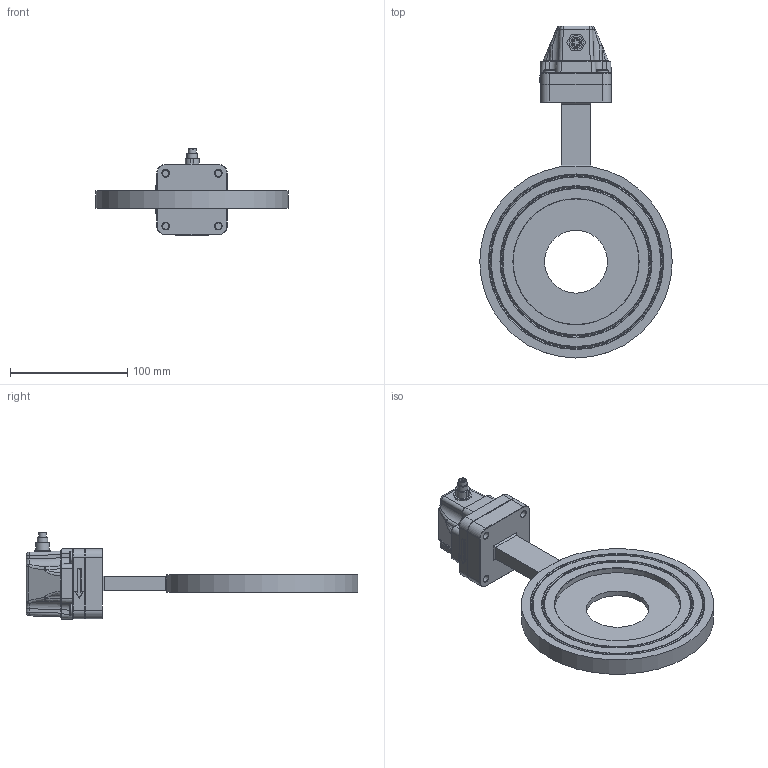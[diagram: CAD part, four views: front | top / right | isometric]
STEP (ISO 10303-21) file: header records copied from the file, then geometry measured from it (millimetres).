
FILE_DESCRIPTION(/* description */ ('Alibre Inc.'),/* implementation_level */ '2;1');
FILE_NAME(/* name */ 'export0',/* time_stamp */ '2012-11-14T14:30:20+01:00',/* author */ (''),/* organization */ (''),/* preprocessor_version */ 'ST-DEVELOPER v14',/* originating_system */ 'Alibre',/* authorisation */ '');
FILE_SCHEMA (('CONFIG_CONTROL_DESIGN'));
Length unit declared in the file: centimetre
Products named in the file (6): ID_1; ID_2; ID_3; ID_4
Bounding box: 164 x 282.75 x 73.94 mm (x, y, z)
Volume: 334926.3 mm3; surface area: 99193 mm2
Topology: 8 solids, 8 shells, 655 faces, 1434 edges, 839 vertices
Faces by surface type: plane 214, cylinder 177, bspline 115, cone 94, sphere 31, torus 24
Full cylindrical faces by diameter (mm): 0.75 x5, 3.198 x4, 6 x16, 6.2 x1, 6.4 x4, 6.7 x1, 8.9 x1, 9.6 x4, 10 x4, 11 x4, 17.2 x2, 21.1 x2, 53.5 x1, 107 x2
Entity records: 38895 total; most frequent: CARTESIAN_POINT 26780, ORIENTED_EDGE 2340, DIRECTION 2192, EDGE_CURVE 1170, AXIS2_PLACEMENT_3D 974, VERTEX_POINT 726, EDGE_LOOP 716, FACE_BOUND 716
